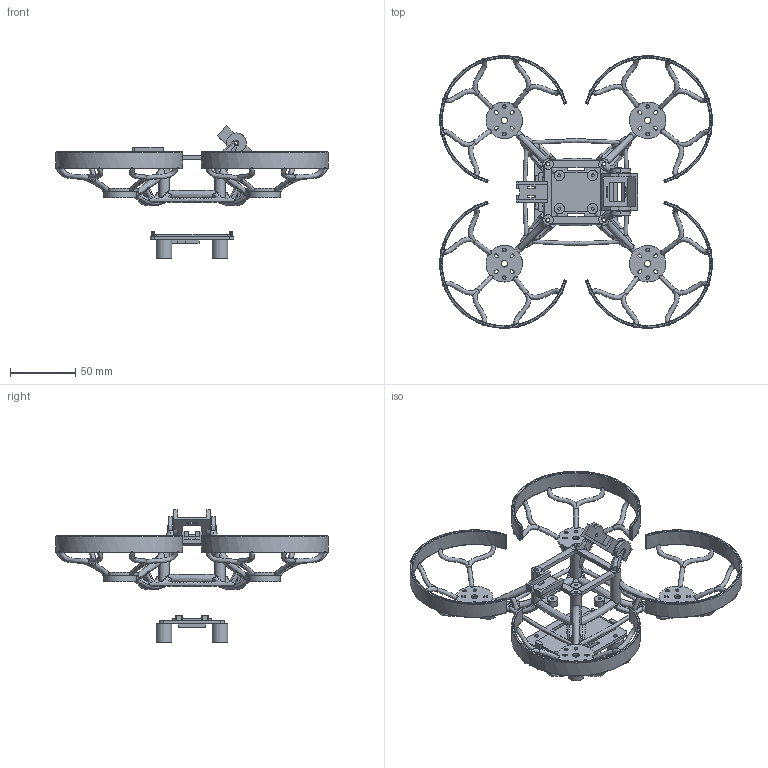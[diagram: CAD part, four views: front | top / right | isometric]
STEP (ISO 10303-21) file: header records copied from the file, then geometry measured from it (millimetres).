
FILE_DESCRIPTION(('Open CASCADE Model'),'2;1');
FILE_NAME('Open CASCADE Shape Model','2026-10-11T00:34:11',('Author'),( 'Open CASCADE'),'Open CASCADE STEP processor 7.8','Open CASCADE 7.8' ,'Unknown');
FILE_SCHEMA(('AUTOMOTIVE_DESIGN { 1 0 10303 214 1 1 1 1 }'));
Length unit declared in the file: millimetre
Products named in the file (13): CDE1302_Astra_01; Frame_PETG; Guard_1_PETG; Guard_2_PETG; Guard_3_PETG; Guard_4_PETG; BottomPlate_PETG; BatteryPad_TPU; CameraCradle_TPU; Foot_1_TPU; Foot_2_TPU; Foot_3_TPU; Foot_4_TPU
Assembly tree (12 placements, depth 2):
  CDE1302_Astra_01
    Frame_PETG
    Guard_1_PETG
    Guard_2_PETG
    Guard_3_PETG
    Guard_4_PETG
    BottomPlate_PETG
    BatteryPad_TPU
    CameraCradle_TPU
    Foot_1_TPU
    Foot_2_TPU
    Foot_3_TPU
    Foot_4_TPU
Bounding box: 208.99 x 208.99 x 101.51 mm (x, y, z)
Volume: 86965.1 mm3; surface area: 85963 mm2
Topology: 12 solids, 12 shells, 1483 faces, 4121 edges, 2640 vertices
Faces by surface type: plane 970, cylinder 280, bspline 137, torus 64, sphere 32
Full cylindrical faces by diameter (mm): 2.3 x4, 2.4 x8, 2.5 x2, 2.8 x8, 2.9 x12, 3.3 x2, 4.8 x4, 5 x8, 8 x8, 12 x4, 25 x4
Entity records: 271285 total; most frequent: CARTESIAN_POINT 196464, DIRECTION 11668, ORIENTED_EDGE 8166, PCURVE 8166, DEFINITIONAL_REPRESENTATION 8166, LINE 6917, VECTOR 6917, EDGE_CURVE 4083
